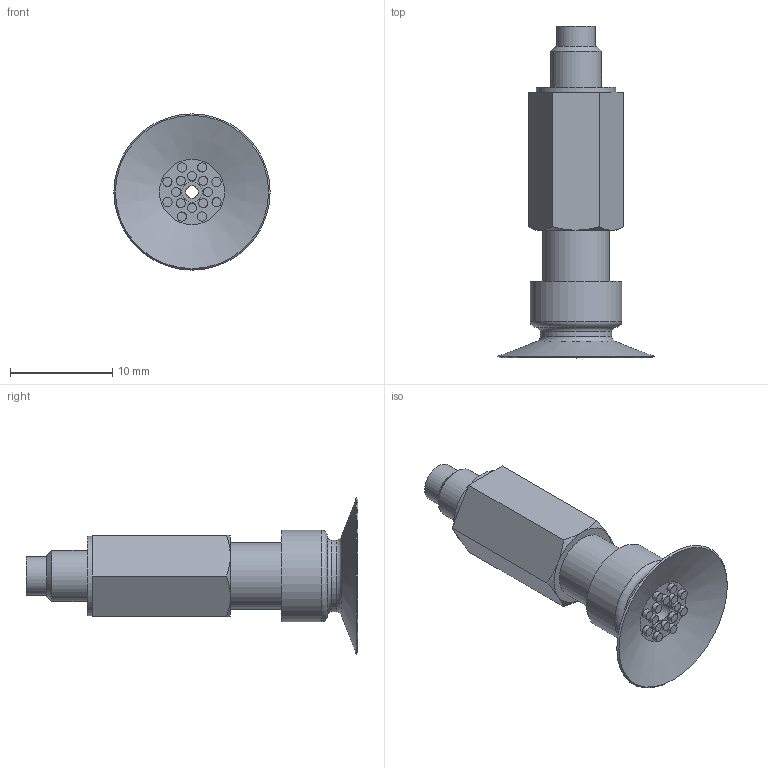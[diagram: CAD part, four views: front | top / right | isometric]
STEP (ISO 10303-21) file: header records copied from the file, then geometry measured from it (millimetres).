
FILE_DESCRIPTION(('STEP AP214'),'1');
FILE_NAME('.stp','2024-08-12T01:43:52',(' '),(' '),'Spatial InterOp 3D',' ',' ');
FILE_SCHEMA(('AUTOMOTIVE_DESIGN { 1 0 10303 214 1 1 1 1 }'));
Length unit declared in the file: millimetre
Products named in the file (4): BPSS-L5-BPAG-15A-※; PSS-10A-L5-M; PSS-10A-L5-F; BPAG-15A-※
Assembly tree (3 placements, depth 2):
  BPSS-L5-BPAG-15A-※
    PSS-10A-L5-M
    PSS-10A-L5-F
    BPAG-15A-※
Bounding box: 15.3 x 32.5 x 15.3 mm (x, y, z)
Volume: 1297.2 mm3; surface area: 2092.8 mm2
Topology: 3 solids, 3 shells, 86 faces, 150 edges, 96 vertices
Faces by surface type: plane 38, cylinder 32, cone 10, torus 6
Full cylindrical faces by diameter (mm): 0.9 x16, 1.2 x1, 2 x1, 2.4 x2, 3.4 x1, 3.8 x1, 4 x2, 5 x1, 6 x2, 6.5 x2, 7 x1, 7.8 x1, 9 x1
Entity records: 2888 total; most frequent: DIRECTION 350, CARTESIAN_POINT 308, ORIENTED_EDGE 206, AXIS2_PLACEMENT_3D 169, EDGE_LOOP 160, STYLED_ITEM 141, PRESENTATION_STYLE_ASSIGNMENT 141, COLOUR_RGB 141
